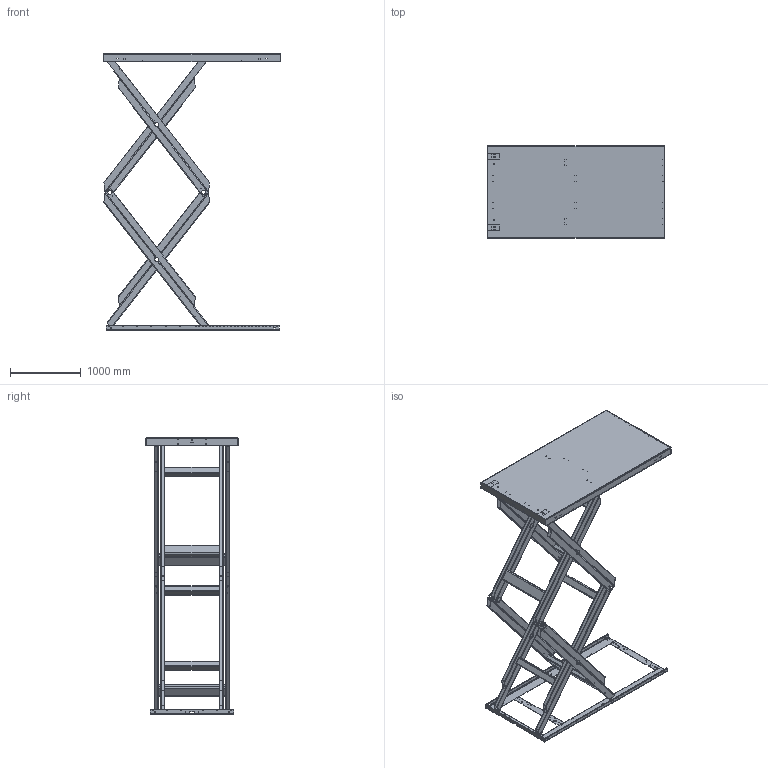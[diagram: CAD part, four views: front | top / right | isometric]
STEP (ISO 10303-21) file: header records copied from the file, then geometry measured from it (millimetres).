
FILE_DESCRIPTION(/* description */ ('Långsida'),/* implementation_level */ '2;1');
FILE_NAME(/* name */ '\\EDMOFILE01\Users$\JOHSO\Desktop\33670_Topp.stp',/* time_stamp */ '2015-07-02T14:00:14+02:00',/* author */ ('JOHSO'),/* organization */ (''),/* preprocessor_version */ 'ST-DEVELOPER v15.6',/* originating_system */ 'Autodesk Inventor 2015',/* authorisation */ '');
FILE_SCHEMA (('AUTOMOTIVE_DESIGN { 1 0 10303 214 3 1 1 }'));
Length unit declared in the file: millimetre
Products named in the file (29): 514610-5; 514601-2; 514610-1; 514601-4; 45259; 514615; 33678-1; 33678-2; 33678C; 44142C-950; 33673C; 33677-1; 33677-2; 33677; 44140C-768; 33674C; 45070-2045; 45070-2375; 33679; 33675; 44141C-768; 33676; 32097; 42773; 42858; 33672; 70025; 42509; 33670
Assembly tree (46 placements, depth 4):
  33670
    514615
      514610-5
      514601-2  x2
      514610-1
      514601-4
      45259  x2
    33673C
      33678C  x2
        33678-1
        33678-2
      44142C-950
    33674C
      33677  x2
        33677-1
        33677-2
      44140C-768  x2
    33675
      33679  x2
        45070-2045
        45070-2375
      44142C-950
    33676
      33677  x2
        33677-1
        33677-2
      44141C-768
      44140C-768
    33672
      32097
      42773  x2
      42858  x2
      45259  x2
    70025  x4
    42509  x2
Bounding box: 2500 x 1300 x 3900 mm (x, y, z)
Volume: 83953886 mm3; surface area: 34832217 mm2
Topology: 42 solids, 42 shells, 1886 faces, 5480 edges, 3676 vertices
Faces by surface type: cylinder 956, plane 916, bspline 10, cone 4
Full cylindrical faces by diameter (mm): 7.3 x8, 7.4 x48, 8 x4, 10.2 x4, 10.5 x4, 12 x10, 13 x6, 14.2 x16, 15 x2, 19 x2, 22 x6, 28 x4, 28.1 x4, 34 x4, 60 x8, 70 x8
Entity records: 46863 total; most frequent: CARTESIAN_POINT 9697, DIRECTION 7684, ORIENTED_EDGE 7422, EDGE_CURVE 3711, AXIS2_PLACEMENT_3D 2666, VERTEX_POINT 2521, LINE 2352, VECTOR 2352
